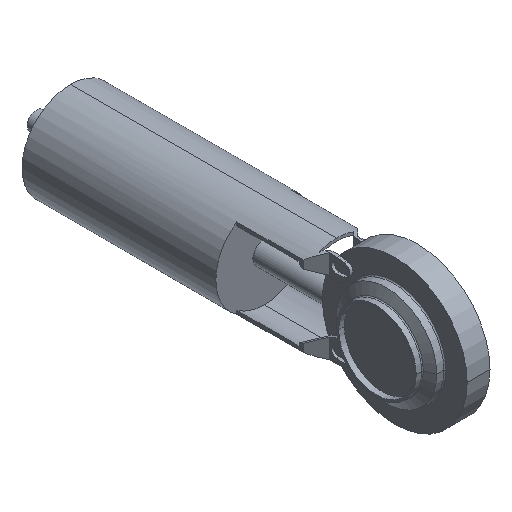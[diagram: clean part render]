
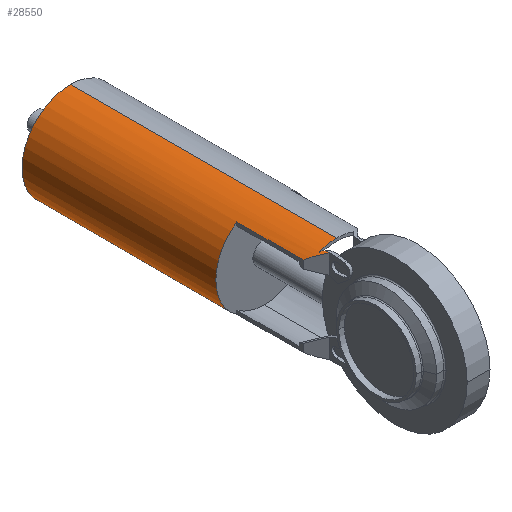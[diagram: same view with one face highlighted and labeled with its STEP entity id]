
A CAD part, isometric view. The second image highlights one B-rep face of the part: STEP entity #28550.
In plain terms, the highlighted cylindrical face has radius 42.5 mm (diameter 85 mm), a partial arc.
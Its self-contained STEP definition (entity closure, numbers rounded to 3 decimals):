
#19720=CARTESIAN_POINT('',(-122.126,169.806,
-35.075));
#19730=VERTEX_POINT('',#19720);
#19760=CARTESIAN_POINT('',(-98.126,169.806,
0.));
#19770=DIRECTION('',(0.,-1.,0.));
#19780=DIRECTION('',(0.,0.,1.));
#19790=AXIS2_PLACEMENT_3D('',#19760,#19770,#19780);
#19800=CIRCLE('',#19790,42.5);
#19810=CARTESIAN_POINT('',(-122.126,169.806,
35.075));
#19820=VERTEX_POINT('',#19810);
#19830=EDGE_CURVE('',#19820,#19730,#19800,.T.);
#21790=CARTESIAN_POINT('',(-98.126,106.406,
0.));
#21800=DIRECTION('',(0.,-1.,0.));
#21810=DIRECTION('',(0.,0.,-1.));
#21820=AXIS2_PLACEMENT_3D('',#21790,#21800,#21810);
#21830=CIRCLE('',#21820,42.5);
#21840=CARTESIAN_POINT('',(-98.126,106.406,-42.5));
#21850=VERTEX_POINT('',#21840);
#21880=CARTESIAN_POINT('',(-113.184,106.406,
-39.743));
#21890=VERTEX_POINT('',#21880);
#21900=EDGE_CURVE('',#21890,#21850,#21830,.T.);
#22280=CARTESIAN_POINT('',(-98.126,91.348,
0.));
#22290=DIRECTION('',(0.707,0.707,0.));
#22300=DIRECTION('',(0.707,-0.707,0.));
#22310=AXIS2_PLACEMENT_3D('',#22280,#22290,#22300);
#22320=ELLIPSE('',#22310,60.104,42.5);
#22330=CARTESIAN_POINT('',(-108.126,101.348,
-41.307));
#22340=VERTEX_POINT('',#22330);
#22350=EDGE_CURVE('',#22340,#21890,#22320,.T.);
#22530=CARTESIAN_POINT('',(-122.126,366.667,
-35.075));
#22540=DIRECTION('',(0.,-1.,0.));
#22550=VECTOR('',#22540,1.);
#22560=LINE('',#22530,#22550);
#22570=CARTESIAN_POINT('',(-122.126,111.812,
-35.075));
#22580=VERTEX_POINT('',#22570);
#22590=EDGE_CURVE('',#19730,#22580,#22560,.T.);
#23130=CARTESIAN_POINT('',(-110.626,93.857,
-40.62));
#23140=VERTEX_POINT('',#23130);
#23170=CARTESIAN_POINT('',(-110.626,366.667,
-40.62));
#23180=DIRECTION('',(0.,-1.,0.));
#23190=VECTOR('',#23180,1.);
#23200=LINE('',#23170,#23190);
#23210=CARTESIAN_POINT('',(-110.626,100.312,
-40.62));
#23220=VERTEX_POINT('',#23210);
#23230=EDGE_CURVE('',#23220,#23140,#23200,.T.);
#24810=CARTESIAN_POINT('',(-110.626,103.848,
40.62));
#24820=VERTEX_POINT('',#24810);
#24850=CARTESIAN_POINT('',(-98.126,91.348,
0.));
#24860=DIRECTION('',(0.707,0.707,0.));
#24870=DIRECTION('',(-0.707,0.707,0.));
#24880=AXIS2_PLACEMENT_3D('',#24850,#24860,#24870);
#24890=ELLIPSE('',#24880,60.104,42.5);
#24900=CARTESIAN_POINT('',(-113.184,106.406,
39.743));
#24910=VERTEX_POINT('',#24900);
#24920=EDGE_CURVE('',#24910,#24820,#24890,.T.);
#26250=CARTESIAN_POINT('',(-122.126,111.812,
35.075));
#26260=VERTEX_POINT('',#26250);
#26580=CARTESIAN_POINT('',(-122.126,366.667,
35.075));
#26590=DIRECTION('',(0.,-1.,0.));
#26600=VECTOR('',#26590,1.);
#26610=LINE('',#26580,#26600);
#26620=EDGE_CURVE('',#19820,#26260,#26610,.T.);
#27520=CARTESIAN_POINT('',(-98.126,106.406,
0.));
#27530=DIRECTION('',(0.,-1.,0.));
#27540=DIRECTION('',(0.,0.,1.));
#27550=AXIS2_PLACEMENT_3D('',#27520,#27530,#27540);
#27560=CIRCLE('',#27550,42.5);
#27570=CARTESIAN_POINT('',(-98.126,106.406,42.5));
#27580=VERTEX_POINT('',#27570);
#27590=EDGE_CURVE('',#27580,#24910,#27560,.T.);
#27710=CARTESIAN_POINT('',(-98.126,169.806,
0.));
#27720=DIRECTION('',(0.,-1.,0.));
#27730=DIRECTION('',(0.,0.,-1.));
#27740=AXIS2_PLACEMENT_3D('',#27710,#27720,#27730);
#27750=CYLINDRICAL_SURFACE('',#27740,42.5);
#27760=ORIENTED_EDGE('',*,*,#24920,.F.);
#27770=CARTESIAN_POINT('',(-110.626,366.667,
40.62));
#27780=DIRECTION('',(0.,-1.,0.));
#27790=VECTOR('',#27780,1.);
#27800=LINE('',#27770,#27790);
#27810=CARTESIAN_POINT('',(-110.626,100.312,
40.62));
#27820=VERTEX_POINT('',#27810);
#27830=EDGE_CURVE('',#24820,#27820,#27800,.T.);
#27840=ORIENTED_EDGE('',*,*,#27830,.F.);
#27850=CARTESIAN_POINT('',(-98.126,87.812,
0.));
#27860=DIRECTION('',(-0.707,-0.707,0.));
#27870=DIRECTION('',(0.707,-0.707,0.));
#27880=AXIS2_PLACEMENT_3D('',#27850,#27860,#27870);
#27890=ELLIPSE('',#27880,60.104,42.5);
#27900=EDGE_CURVE('',#27820,#26260,#27890,.T.);
#27910=ORIENTED_EDGE('',*,*,#27900,.F.);
#27920=ORIENTED_EDGE('',*,*,#26620,.T.);
#27930=ORIENTED_EDGE('',*,*,#19830,.F.);
#27940=ORIENTED_EDGE('',*,*,#22590,.F.);
#27950=CARTESIAN_POINT('',(-98.126,87.812,
0.));
#27960=DIRECTION('',(0.707,0.707,0.));
#27970=DIRECTION('',(0.707,-0.707,0.));
#27980=AXIS2_PLACEMENT_3D('',#27950,#27960,#27970);
#27990=ELLIPSE('',#27980,60.104,42.5);
#28000=EDGE_CURVE('',#23220,#22580,#27990,.T.);
#28010=ORIENTED_EDGE('',*,*,#28000,.T.);
#28020=ORIENTED_EDGE('',*,*,#23230,.F.);
#28030=CARTESIAN_POINT('',(-98.126,-262.662,
0.));
#28040=DIRECTION('',(0.,-0.113,-0.994));
#28050=DIRECTION('',(0.,0.994,-0.113));
#28060=AXIS2_PLACEMENT_3D('',#28030,#28040,#28050);
#28070=ELLIPSE('',#28060,375.431,42.5);
#28080=CARTESIAN_POINT('',(-108.774,98.46,
-41.145));
#28090=VERTEX_POINT('',#28080);
#28100=EDGE_CURVE('',#23140,#28090,#28070,.T.);
#28110=ORIENTED_EDGE('',*,*,#28100,.F.);
#28120=CARTESIAN_POINT('',(-98.126,87.812,
0.));
#28130=DIRECTION('',(-0.707,-0.707,0.));
#28140=DIRECTION('',(-0.707,0.707,0.));
#28150=AXIS2_PLACEMENT_3D('',#28120,#28130,#28140);
#28160=ELLIPSE('',#28150,60.104,42.5);
#28170=CARTESIAN_POINT('',(-108.126,97.812,
-41.307));
#28180=VERTEX_POINT('',#28170);
#28190=EDGE_CURVE('',#28090,#28180,#28160,.T.);
#28200=ORIENTED_EDGE('',*,*,#28190,.F.);
#28210=CARTESIAN_POINT('',(-108.126,366.667,
-41.307));
#28220=DIRECTION('',(0.,-1.,0.));
#28230=VECTOR('',#28220,1.);
#28240=LINE('',#28210,#28230);
#28250=EDGE_CURVE('',#22340,#28180,#28240,.T.);
#28260=ORIENTED_EDGE('',*,*,#28250,.T.);
#28270=ORIENTED_EDGE('',*,*,#22350,.F.);
#28280=ORIENTED_EDGE('',*,*,#21900,.F.);
#28290=CARTESIAN_POINT('',(-98.126,169.806,-42.5));
#28300=DIRECTION('',(0.,-1.,0.));
#28310=VECTOR('',#28300,1.);
#28320=LINE('',#28290,#28310);
#28330=CARTESIAN_POINT('',(-98.126,339.806,-42.5));
#28340=VERTEX_POINT('',#28330);
#28350=EDGE_CURVE('',#28340,#21850,#28320,.T.);
#28360=ORIENTED_EDGE('',*,*,#28350,.T.);
#28370=CARTESIAN_POINT('',(-98.126,339.806,
0.));
#28380=DIRECTION('',(0.,-1.,0.));
#28390=DIRECTION('',(0.,0.,-1.));
#28400=AXIS2_PLACEMENT_3D('',#28370,#28380,#28390);
#28410=CIRCLE('',#28400,42.5);
#28420=CARTESIAN_POINT('',(-98.126,339.806,42.5));
#28430=VERTEX_POINT('',#28420);
#28440=EDGE_CURVE('',#28430,#28340,#28410,.T.);
#28450=ORIENTED_EDGE('',*,*,#28440,.T.);
#28460=CARTESIAN_POINT('',(-98.126,169.806,42.5));
#28470=DIRECTION('',(0.,-1.,0.));
#28480=VECTOR('',#28470,1.);
#28490=LINE('',#28460,#28480);
#28500=EDGE_CURVE('',#28430,#27580,#28490,.T.);
#28510=ORIENTED_EDGE('',*,*,#28500,.F.);
#28520=ORIENTED_EDGE('',*,*,#27590,.F.);
#28530=EDGE_LOOP('',(#28520,#28510,#28450,#28360,#28280,#28270,#28260,
#28200,#28110,#28020,#28010,#27940,#27930,#27920,#27910,#27840,#27760));
#28540=FACE_OUTER_BOUND('',#28530,.T.);
#28550=ADVANCED_FACE('',(#28540),#27750,.T.);
